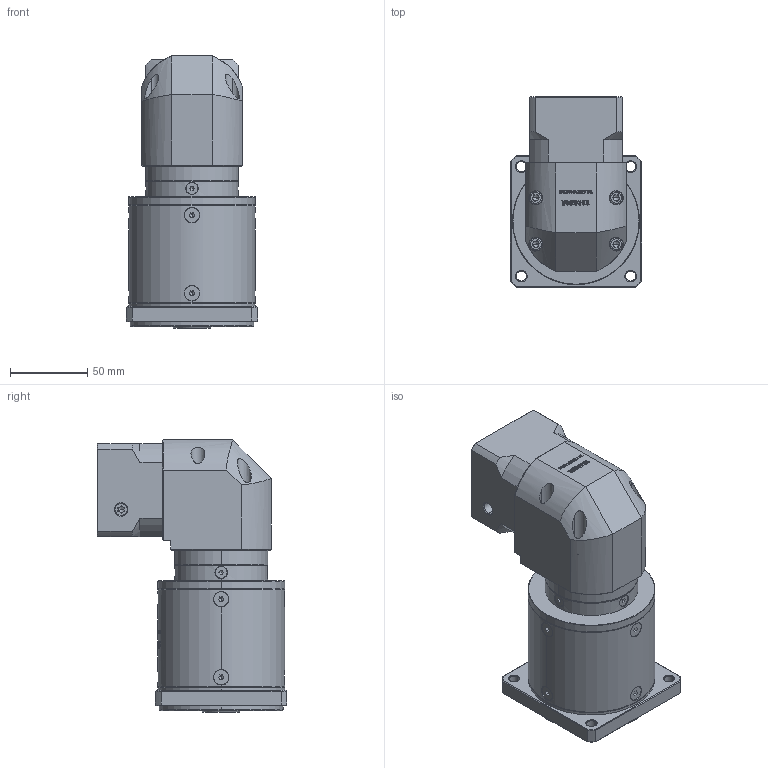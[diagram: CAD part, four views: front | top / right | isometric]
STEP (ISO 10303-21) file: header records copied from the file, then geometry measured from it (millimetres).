
FILE_DESCRIPTION (( 'STEP AP214' ), '1' );
FILE_NAME ('ZFR80-K15-L3-8-30-46-M4.step', '2022-05-08T15:01:50', ( '' ), ( 'Microsoft' ), 'SwSTEP 2.0', 'SolidWorks 2016', '' );
FILE_SCHEMA (( 'AUTOMOTIVE_DESIGN' ));
Length unit declared in the file: millimetre
Products named in the file (1): ZFR80-K15-L3-8-30-46-M4
Bounding box: 85 x 122.7 x 176 mm (x, y, z)
Volume: 878098.6 mm3; surface area: 107944.1 mm2
Topology: 17 solids, 18 shells, 3072 faces, 8228 edges, 5317 vertices
Faces by surface type: plane 1592, bspline 662, cylinder 425, cone 373, torus 20
Entity records: 180914 total; most frequent: CARTESIAN_POINT 75948, ORIENTED_EDGE 16384, DIRECTION 12275, EDGE_CURVE 8192, VERTEX_POINT 5317, LINE 4923, VECTOR 4923, AXIS2_PLACEMENT_3D 3676
